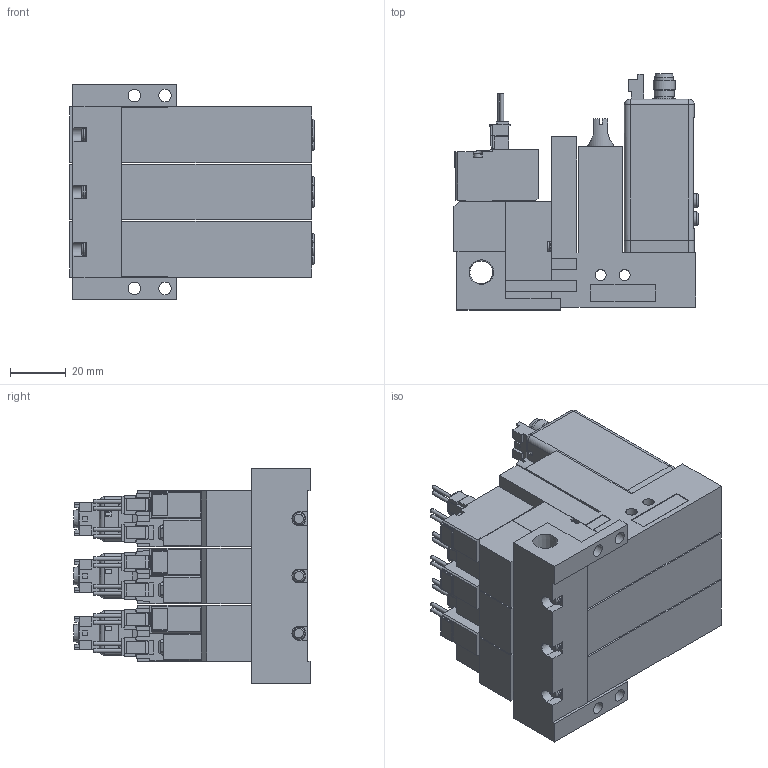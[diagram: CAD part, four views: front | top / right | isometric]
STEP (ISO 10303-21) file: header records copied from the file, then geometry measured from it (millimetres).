
FILE_DESCRIPTION(('STEP AP203'),'1');
FILE_NAME('22_22PL5ALR303.stp','2025-06-12T02:12:06',(' '),(' '),'Spatial InterOp 3D',' ',' ');
FILE_SCHEMA(('CONFIG_CONTROL_DESIGN'));
Length unit declared in the file: millimetre
Products named in the file (7): BMC22M※※※※22_22PL5ALR303; Solenoid valve A; Unit L; Base MR30R; MVS-202
Assembly tree (10 placements, depth 2):
  BMC22M※※※※22_22PL5ALR303
    Solenoid valve A  x3
    Unit L  x3
    Base MR30R
    MVS-202
    MVS-202
    MVS-202
Bounding box: 87.5 x 84.6 x 77 mm (x, y, z)
Volume: 294470.7 mm3; surface area: 89595.9 mm2
Topology: 10 solids, 22 shells, 2325 faces, 6056 edges, 3955 vertices
Faces by surface type: plane 1952, cylinder 293, cone 50, torus 18, sphere 12
Full cylindrical faces by diameter (mm): 1 x12, 1.4 x12, 1.5 x3, 2.5 x3, 3 x12, 3.5 x12, 3.6 x3, 4 x6, 4.134 x3, 4.5 x16, 4.8 x9, 5 x6, 5.2 x3, 5.8 x6, 6 x6, 6.5 x9, 6.6 x3, 7 x3, 7.2 x3, 7.9 x3, 8 x6, 8.279 x1
Entity records: 49540 total; most frequent: CARTESIAN_POINT 8918, ORIENTED_EDGE 8124, DIRECTION 7978, EDGE_CURVE 4062, LINE 3440, VECTOR 3440, VERTEX_POINT 2749, AXIS2_PLACEMENT_3D 2269
